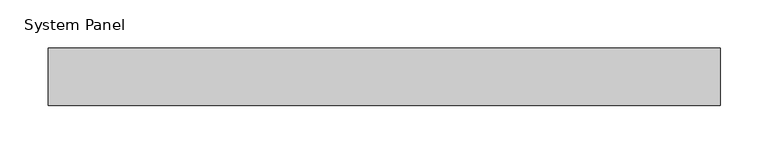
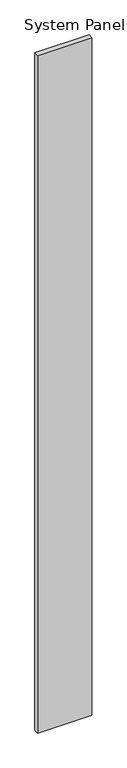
"""IFC4 building model written with IfcOpenShell, lengths in millimetres: plate geometry, System Panel : MetecnoSpan_60mm_Vertical_Plain_Surfmist."""

import ifcopenshell
import ifcopenshell.guid

model = None  # the IFC model being written
_history = None  # IfcOwnerHistory: only IFC2X3 demands one
_inside = {}  # id of a spatial element -> (the spatial element, [elements in it])
_under = {}  # id of a project, library or spatial element -> (it, [spatial elements below it])
_declared = {}  # id of a project -> (the project, [libraries it declares])
_typed = {}  # id of a type object -> (the type object, [elements of that type])
_made_of = {}  # id of a material, layer set ... -> (it, [elements and type objects made of it])


def new_model(schema):
    """Start an empty IFC model of exactly this schema.

    Asked for "IFC4X3", IfcOpenShell would pick the latest addendum, in which some entities
    have other attributes; the version numbers below select the first issue.
    IFC2X3 requires an IfcOwnerHistory on every rooted entity: one is made here for all.
    """
    global model, _history
    if schema == "IFC4X3":
        model = ifcopenshell.file(schema_version=(4, 3, 0, 0))
    else:
        model = ifcopenshell.file(schema=schema)
    _inside.clear()
    _under.clear()
    _declared.clear()
    _typed.clear()
    _made_of.clear()
    _history = None
    if model.schema == "IFC2X3":
        org = make("IfcOrganization", Name="unknown")
        user = make(
            "IfcPersonAndOrganization",
            ThePerson=make("IfcPerson", FamilyName="unknown"),
            TheOrganization=org,
        )
        app = make(
            "IfcApplication",
            ApplicationDeveloper=org,
            Version="unknown",
            ApplicationFullName="unknown",
            ApplicationIdentifier="unknown",
        )
        _history = make(
            "IfcOwnerHistory",
            OwningUser=user,
            OwningApplication=app,
            ChangeAction="ADDED",
            CreationDate=0,
        )
    return model


def make(cls, **values):
    """One entity of the class cls with the attributes given. An attribute that is None is left unset."""
    return model.create_entity(
        cls, **{name: value for name, value in values.items() if value is not None}
    )


def rooted(cls, **values):
    """An entity with a GlobalId (a new one), such as an element, a storey or a relation."""
    return make(cls, GlobalId=ifcopenshell.guid.new(), OwnerHistory=_history, **values)


def si_unit(unit_type, name, prefix=None):
    """IfcSIUnit, for example si_unit("LENGTHUNIT", "METRE", prefix="MILLI")."""
    return make("IfcSIUnit", UnitType=unit_type, Prefix=prefix, Name=name)


def assignment(units):
    """IfcUnitAssignment: the units of a project."""
    return None if units is None else make("IfcUnitAssignment", Units=units)


def point(xyz):
    """IfcCartesianPoint."""
    return None if xyz is None else make("IfcCartesianPoint", Coordinates=xyz)


def direction(xyz):
    """IfcDirection."""
    return None if xyz is None else make("IfcDirection", DirectionRatios=xyz)


def frame(location, z_axis=None, x_axis=None):
    """IfcAxis2Placement3D, a coordinate frame: its origin and axes. An axis left out is left unset."""
    return make(
        "IfcAxis2Placement3D",
        Location=point(location),
        Axis=direction(z_axis),
        RefDirection=direction(x_axis),
    )


def origin():
    """The frame at (0, 0, 0) with its axes left unset."""
    return frame((0.0, 0.0, 0.0))


def origin_with_axes():
    """The frame at (0, 0, 0) with the z axis (0, 0, 1) and the x axis (1, 0, 0) written out."""
    return frame((0.0, 0.0, 0.0), z_axis=(0.0, 0.0, 1.0), x_axis=(1.0, 0.0, 0.0))


def place(relative_to, where):
    """IfcLocalPlacement: puts the frame where relative to a parent placement (None: the world)."""
    return make(
        "IfcLocalPlacement", PlacementRelTo=relative_to, RelativePlacement=where
    )


def context(
    kind, dimensions, precision=None, world=None, true_north=None, identifier=None
):
    """IfcGeometricRepresentationContext, for example the 3D "Model" context."""
    return make(
        "IfcGeometricRepresentationContext",
        ContextIdentifier=identifier,
        ContextType=kind,
        CoordinateSpaceDimension=dimensions,
        Precision=precision,
        WorldCoordinateSystem=world,
        TrueNorth=true_north,
    )


def project(units=None, contexts=None):
    """IfcProject with its units and contexts."""
    return rooted(
        "IfcProject",
        Name="project",
        RepresentationContexts=contexts,
        UnitsInContext=assignment(units),
    )


def spatial(cls, under=None, at=None, **own):
    """A site, building, storey or space (cls), placed at a placement, below another one or the project."""
    s = rooted(cls, ObjectPlacement=at, **own)
    if under is not None:
        _under.setdefault(under.id(), (under, []))[1].append(s)
    return s


def polyline(points):
    """IfcPolyline through the points."""
    return make("IfcPolyline", Points=[point(p) for p in points])


def outline(outer, holes=None, kind="AREA"):
    """IfcArbitraryClosedProfileDef: a profile drawn as a closed curve; with holes, ...WithVoids."""
    if holes is None:
        return make("IfcArbitraryClosedProfileDef", ProfileType=kind, OuterCurve=outer)
    return make(
        "IfcArbitraryProfileDefWithVoids",
        ProfileType=kind,
        OuterCurve=outer,
        InnerCurves=holes,
    )


def extrude(swept, where, along, depth):
    """IfcExtrudedAreaSolid: the profile swept, set in the frame where, extruded along a direction by depth."""
    return make(
        "IfcExtrudedAreaSolid",
        SweptArea=swept,
        Position=where,
        ExtrudedDirection=direction(along),
        Depth=depth,
    )


def shape(context_of_items, identifier, shape_type, items):
    """IfcShapeRepresentation: the items that make up one representation, for example the "Body"."""
    return make(
        "IfcShapeRepresentation",
        ContextOfItems=context_of_items,
        RepresentationIdentifier=identifier,
        RepresentationType=shape_type,
        Items=items,
    )


def source(mapping_origin, context_of_items, identifier, shape_type, items):
    """IfcRepresentationMap: a shape defined once, which mapped items show again and again."""
    return make(
        "IfcRepresentationMap",
        MappingOrigin=mapping_origin,
        MappedRepresentation=shape(context_of_items, identifier, shape_type, items),
    )


def transform(
    local_origin,
    x_axis=None,
    y_axis=None,
    z_axis=None,
    scale=None,
    scale2=None,
    scale3=None,
    uniform=True,
):
    """IfcCartesianTransformationOperator3D, or its non-uniform kind. x_axis, y_axis, z_axis: its Axis1, 2, 3."""
    if uniform:
        return make(
            "IfcCartesianTransformationOperator3D",
            Axis1=direction(x_axis),
            Axis2=direction(y_axis),
            LocalOrigin=point(local_origin),
            Scale=scale,
            Axis3=direction(z_axis),
        )
    return make(
        "IfcCartesianTransformationOperator3DnonUniform",
        Axis1=direction(x_axis),
        Axis2=direction(y_axis),
        LocalOrigin=point(local_origin),
        Scale=scale,
        Axis3=direction(z_axis),
        Scale2=scale2,
        Scale3=scale3,
    )


def mapped(mapping_source, mapping_target):
    """IfcMappedItem: shows the shape of a source again, moved by a transform."""
    return make(
        "IfcMappedItem", MappingSource=mapping_source, MappingTarget=mapping_target
    )


def made_of(thing, what):
    """Note that an element or type object is made of a material, layer set ...; save() writes the relation."""
    if what is not None:
        _made_of.setdefault(what.id(), (what, []))[1].append(thing)
    return thing


def element(
    cls,
    number,
    at=None,
    inside=None,
    cuts=None,
    type_object=None,
    material=None,
    context=None,
    identifier="Body",
    shape_type=None,
    held_by="IfcProductDefinitionShape",
    body=None,
    shapes=None,
    **own,
):
    """One element of the class cls, such as IfcWall. Its Tag is "e" and its number.

    at: its placement. inside: the storey or other place that contains it. cuts: it is an
    opening in that element (IfcRelVoidsElement). A single representation is given by context,
    identifier, shape_type and body (its items); several are given by shapes. held_by: the class
    of the entity that holds the representations. save() writes the other relations.
    """
    e = rooted(cls, Tag="e%d" % number, ObjectPlacement=at, **own)
    if body is not None:
        shapes = [shape(context, identifier, shape_type, body)]
    if shapes is not None:
        e.Representation = make(held_by, Representations=shapes)
    if inside is not None:
        _inside.setdefault(inside.id(), (inside, []))[1].append(e)
    if cuts is not None:
        rooted(
            "IfcRelVoidsElement", RelatingBuildingElement=cuts, RelatedOpeningElement=e
        )
    if type_object is not None:
        _typed.setdefault(type_object.id(), (type_object, []))[1].append(e)
    return made_of(e, material)


def aggregate(whole, parts):
    """IfcRelAggregates: a whole, such as a stair, and the parts it consists of."""
    return rooted("IfcRelAggregates", RelatingObject=whole, RelatedObjects=parts)


def save(model, path):
    """Write the relations noted so far, then the file.

    IfcRelAggregates (storeys below a building ...), IfcRelContainedInSpatialStructure (elements
    in a storey), IfcRelDefinesByType, IfcRelAssociatesMaterial and IfcRelDeclares: one each for
    every whole, place, type object, material and project.
    """
    for whole, parts in _under.values():
        aggregate(whole, parts)
    for where, things in _inside.values():
        rooted(
            "IfcRelContainedInSpatialStructure",
            RelatedElements=things,
            RelatingStructure=where,
        )
    for kind, things in _typed.values():
        rooted("IfcRelDefinesByType", RelatedObjects=things, RelatingType=kind)
    for what, things in _made_of.values():
        rooted("IfcRelAssociatesMaterial", RelatedObjects=things, RelatingMaterial=what)
    for by, libraries in _declared.values():
        rooted("IfcRelDeclares", RelatingContext=by, RelatedDefinitions=libraries)
    model.write(path)


def system_panel_3f59478d(model_context):
    return source(origin(), model_context, "Body", "SweptSolid", [
        extrude(outline(polyline([(350.0, -60.0), (-350.0, -60.0), (-350.0, 0.0), (350.0, 0.0), (350.0, -60.0)])), origin_with_axes(), (0.0, 0.0, 1.0), 9240.3821682),
    ])


if __name__ == "__main__":
    model = new_model("IFC4")
    model_context = context("Model", 3, world=origin())
    ifc_project = project(units=[si_unit("LENGTHUNIT", "METRE", prefix="MILLI")], contexts=[model_context])
    site = spatial("IfcSite", under=ifc_project)
    building = spatial("IfcBuilding", under=site)
    placement = place(None, origin())
    system_panel_shape = system_panel_3f59478d(model_context)
    element("IfcPlate", 1, ObjectType="System Panel : MetecnoSpan_60mm_Vertical_Plain_Surfmist", at=placement, inside=building, context=model_context, shape_type="MappedRepresentation", body=[
        mapped(system_panel_shape, transform((0.0, 0.0, 0.0), x_axis=(1.0, 0.0, 0.0), y_axis=(0.0, 1.0, 0.0), z_axis=(0.0, 0.0, 1.0))),
    ])
    save(model, "model.ifc")
